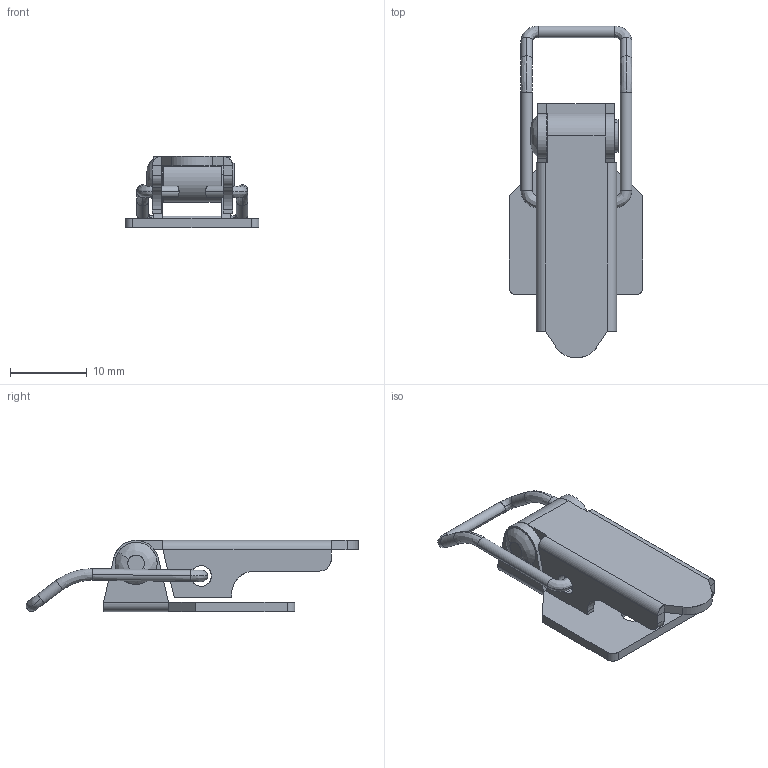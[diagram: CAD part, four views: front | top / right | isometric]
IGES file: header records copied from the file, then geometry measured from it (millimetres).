
Start section: SolidWorks IGES FILE using analytic representation for surfaces
Global section: file name: C:\WINNT\Profiles\cbrechard\Bureau\GE 574\GE 574.IGS; native system: SolidWorks 2001Plus by SolidWorks Corporation; preprocessor: Version 5.3; author: CBRECHARD; date: 050125.145110; units: millimetre
Bounding box: 17.5 x 43.38 x 9.3 mm (x, y, z)
Surface area: 2737.4 mm2 (no closed solid volume)
Topology: 0 solids, 0 shells, 123 faces, 1518 edges, 1518 vertices
Faces by surface type: bspline 74, revolution 49
